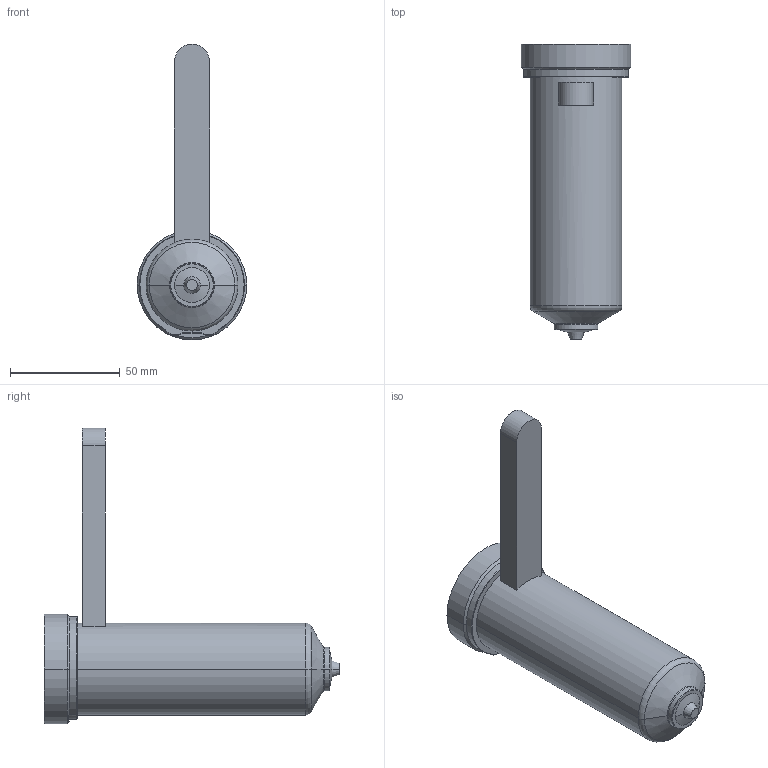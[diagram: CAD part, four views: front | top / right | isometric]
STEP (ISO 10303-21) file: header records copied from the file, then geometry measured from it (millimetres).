
FILE_DESCRIPTION((''),'2;1');
FILE_NAME('EO16_VG-BL_WR_120_COT','2024-02-19T13:21:18',('sundharh'),(''),'CREO PARAMETRIC BY PTC INC, 2023154','CREO PARAMETRIC BY PTC INC, 2023154','');
FILE_SCHEMA(('CONFIG_CONTROL_DESIGN'));
Length unit declared in the file: millimetre
Products named in the file (1): EO16_VG-BL_WR_120_COT
Bounding box: 50 x 135 x 135 mm (x, y, z)
Volume: 196689.2 mm3; surface area: 25149.1 mm2
Topology: 1 solids, 1 shells, 38 faces, 81 edges, 48 vertices
Faces by surface type: cylinder 11, plane 10, torus 9, cone 6, sphere 2
Entity records: 1151 total; most frequent: CARTESIAN_POINT 263, DIRECTION 199, ORIENTED_EDGE 162, AXIS2_PLACEMENT_3D 86, EDGE_CURVE 81, VERTEX_POINT 48, CIRCLE 48, EDGE_LOOP 41
